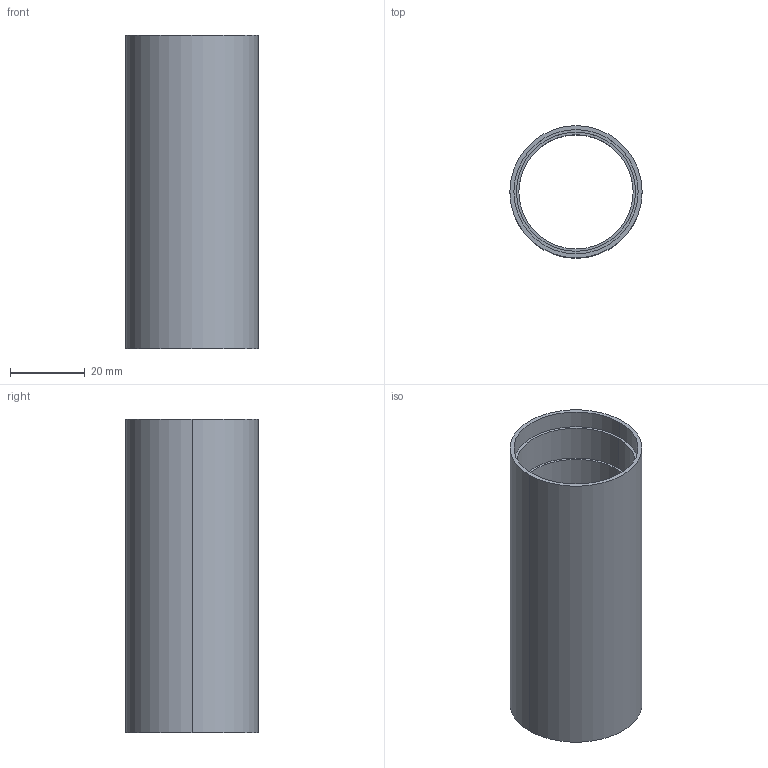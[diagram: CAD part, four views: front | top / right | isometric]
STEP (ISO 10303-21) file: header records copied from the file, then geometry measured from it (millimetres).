
FILE_DESCRIPTION (( 'STEP AP214' ), '1' );
FILE_NAME ('ÎDÌ.028.01.00.003 Êîðïóñ.STEP', '2025-03-18T07:36:05', ( '' ), ( '' ), 'SwSTEP 2.0', 'SolidWorks 2024', '' );
FILE_SCHEMA (( 'AUTOMOTIVE_DESIGN' ));
Length unit declared in the file: millimetre
Products named in the file (1): ОDМ.028.01.00.003 Корпус
Bounding box: 35.3 x 35.3 x 83.7 mm (x, y, z)
Volume: 18675.2 mm3; surface area: 17930.8 mm2
Topology: 1 solids, 1 shells, 18 faces, 36 edges, 24 vertices
Faces by surface type: cylinder 12, plane 6
Entity records: 511 total; most frequent: DIRECTION 98, CARTESIAN_POINT 79, ORIENTED_EDGE 72, AXIS2_PLACEMENT_3D 43, EDGE_CURVE 36, EDGE_LOOP 24, CIRCLE 24, VERTEX_POINT 24
